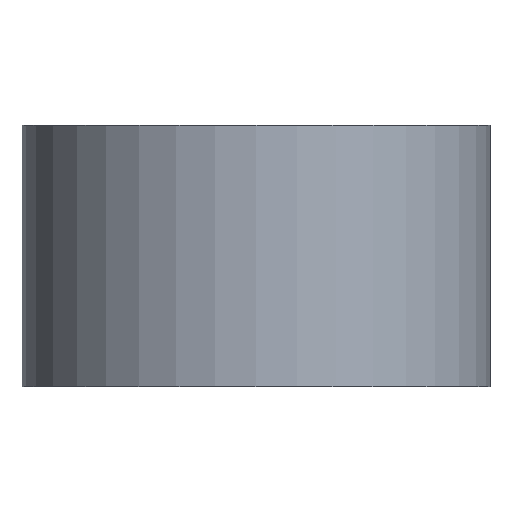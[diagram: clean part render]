
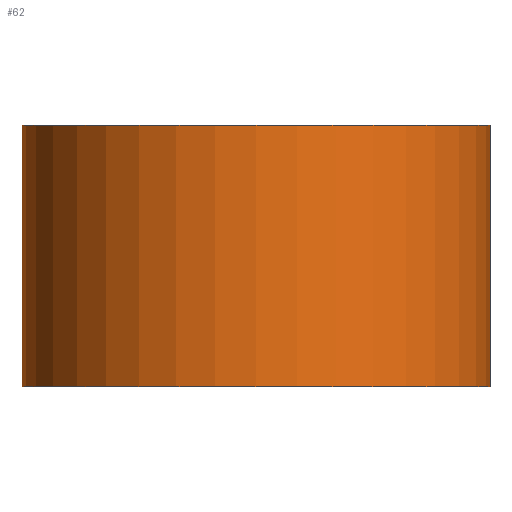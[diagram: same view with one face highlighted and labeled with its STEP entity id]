
A CAD part, front view. The second image highlights one B-rep face of the part: STEP entity #62.
In plain terms, the highlighted cylindrical face has radius 3 mm (diameter 6 mm), a full revolution.
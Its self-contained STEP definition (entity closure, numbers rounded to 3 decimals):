
#20=FACE_OUTER_BOUND('',#24,.T.);
#24=EDGE_LOOP('',(#51,#52,#53,#54));
#30=LINE('',#124,#32);
#32=VECTOR('',#106,3.);
#35=CIRCLE('',#89,3.);
#36=CIRCLE('',#90,3.);
#39=VERTEX_POINT('',#121);
#40=VERTEX_POINT('',#123);
#44=EDGE_CURVE('',#39,#39,#35,.T.);
#45=EDGE_CURVE('',#39,#40,#30,.T.);
#46=EDGE_CURVE('',#40,#40,#36,.T.);
#51=ORIENTED_EDGE('',*,*,#44,.F.);
#52=ORIENTED_EDGE('',*,*,#45,.T.);
#53=ORIENTED_EDGE('',*,*,#46,.F.);
#54=ORIENTED_EDGE('',*,*,#45,.F.);
#60=CYLINDRICAL_SURFACE('',#88,3.);
#62=ADVANCED_FACE('',(#20),#60,.T.);
#88=AXIS2_PLACEMENT_3D('',#120,#102,#103);
#89=AXIS2_PLACEMENT_3D('',#122,#104,#105);
#90=AXIS2_PLACEMENT_3D('',#125,#107,#108);
#102=DIRECTION('center_axis',(0.,0.,-1.));
#103=DIRECTION('ref_axis',(1.,0.,0.));
#104=DIRECTION('center_axis',(0.,0.,-1.));
#105=DIRECTION('ref_axis',(1.,0.,0.));
#106=DIRECTION('',(0.,0.,1.));
#107=DIRECTION('center_axis',(0.,0.,1.));
#108=DIRECTION('ref_axis',(1.,0.,0.));
#120=CARTESIAN_POINT('Origin',(0.,0.,0.));
#121=CARTESIAN_POINT('',(-3.,0.,-3.35));
#122=CARTESIAN_POINT('Origin',(0.,0.,-3.35));
#123=CARTESIAN_POINT('',(-3.,0.,0.));
#124=CARTESIAN_POINT('',(-3.,0.,0.));
#125=CARTESIAN_POINT('Origin',(0.,0.,0.));
